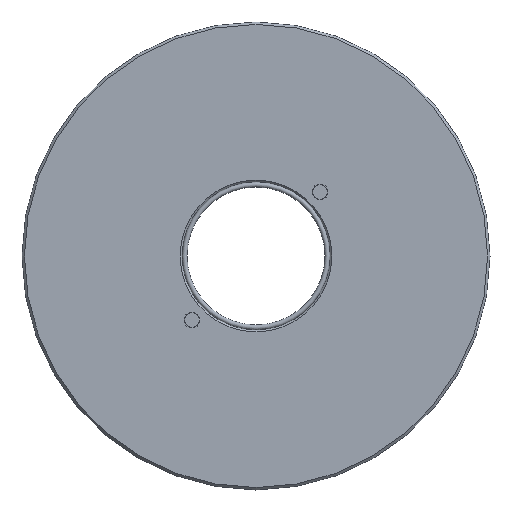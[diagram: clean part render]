
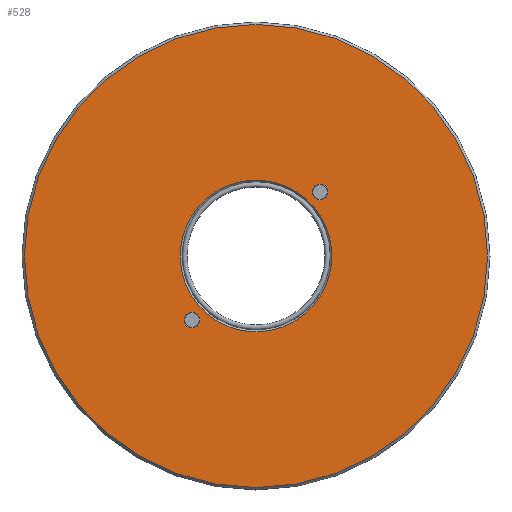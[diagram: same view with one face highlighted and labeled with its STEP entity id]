
A CAD part, front view. The second image highlights one B-rep face of the part: STEP entity #528.
In plain terms, the highlighted planar face has unit normal (0, -1, 0).
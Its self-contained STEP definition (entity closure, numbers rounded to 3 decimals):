
#66=PLANE('',#722);
#89=CIRCLE('',#721,47.);
#90=CIRCLE('',#723,1.6);
#91=CIRCLE('',#724,1.6);
#92=CIRCLE('',#725,15.4);
#127=ORIENTED_EDGE('',*,*,#236,.T.);
#128=ORIENTED_EDGE('',*,*,#237,.T.);
#129=ORIENTED_EDGE('',*,*,#238,.F.);
#130=ORIENTED_EDGE('',*,*,#235,.T.);
#235=EDGE_CURVE('',#410,#410,#89,.T.);
#236=EDGE_CURVE('',#411,#411,#90,.T.);
#237=EDGE_CURVE('',#412,#412,#91,.T.);
#238=EDGE_CURVE('',#413,#413,#92,.T.);
#293=EDGE_LOOP('',(#127));
#294=EDGE_LOOP('',(#128));
#295=EDGE_LOOP('',(#129));
#296=EDGE_LOOP('',(#130));
#410=VERTEX_POINT('',#1331);
#411=VERTEX_POINT('',#1334);
#412=VERTEX_POINT('',#1336);
#413=VERTEX_POINT('',#1338);
#460=FACE_BOUND('',#293,.T.);
#461=FACE_BOUND('',#294,.T.);
#462=FACE_BOUND('',#295,.T.);
#463=FACE_BOUND('',#296,.T.);
#528=ADVANCED_FACE('',(#460,#461,#462,#463),#66,.F.);
#721=AXIS2_PLACEMENT_3D('',#1330,#812,#813);
#722=AXIS2_PLACEMENT_3D('',#1332,#814,#815);
#723=AXIS2_PLACEMENT_3D('',#1333,#816,#817);
#724=AXIS2_PLACEMENT_3D('',#1335,#818,#819);
#725=AXIS2_PLACEMENT_3D('',#1337,#820,#821);
#812=DIRECTION('',(0.,-1.,0.));
#813=DIRECTION('',(1.,0.,0.));
#814=DIRECTION('',(0.,1.,0.));
#815=DIRECTION('',(-1.,0.,0.));
#816=DIRECTION('',(0.,1.,0.));
#817=DIRECTION('',(-1.,0.,0.));
#818=DIRECTION('',(0.,1.,0.));
#819=DIRECTION('',(-1.,0.,0.));
#820=DIRECTION('',(0.,-1.,0.));
#821=DIRECTION('',(1.,0.,0.));
#1330=CARTESIAN_POINT('',(0.,0.,0.));
#1331=CARTESIAN_POINT('',(47.,0.,0.));
#1332=CARTESIAN_POINT('',(-47.,0.,0.));
#1333=CARTESIAN_POINT('',(-13.,0.,-13.));
#1334=CARTESIAN_POINT('',(-14.6,0.,-13.));
#1335=CARTESIAN_POINT('',(13.,0.,13.));
#1336=CARTESIAN_POINT('',(11.4,0.,13.));
#1337=CARTESIAN_POINT('',(0.,0.,0.));
#1338=CARTESIAN_POINT('',(15.4,0.,0.));
